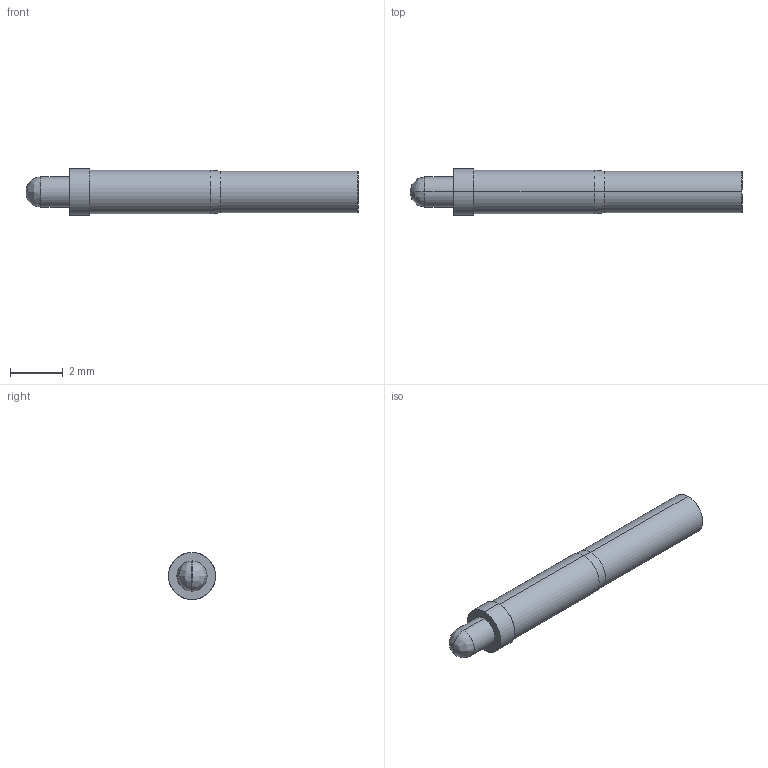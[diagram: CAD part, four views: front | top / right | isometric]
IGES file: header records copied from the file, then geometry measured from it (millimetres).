
Start section: SolidWorks IGES file using analytic representation for surfaces
Global section: file name: O:\PYLON\IGES FILES\E-S\E-S-R.IGS; native system: SolidWorks 2015; preprocessor: SolidWorks 2015; author: kgolden; date: 171024.081728; units: inch
Bounding box: 12.57 x 1.78 x 1.78 mm (x, y, z)
Surface area: 74.7 mm2 (no closed solid volume)
Topology: 0 solids, 0 shells, 19 faces, 208 edges, 208 vertices
Faces by surface type: revolution 12, bspline 7
